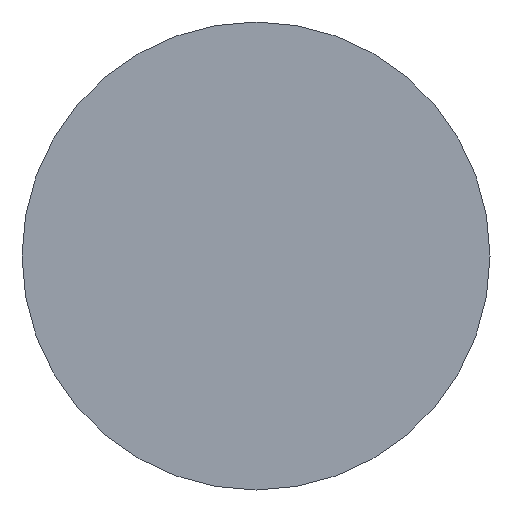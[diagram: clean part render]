
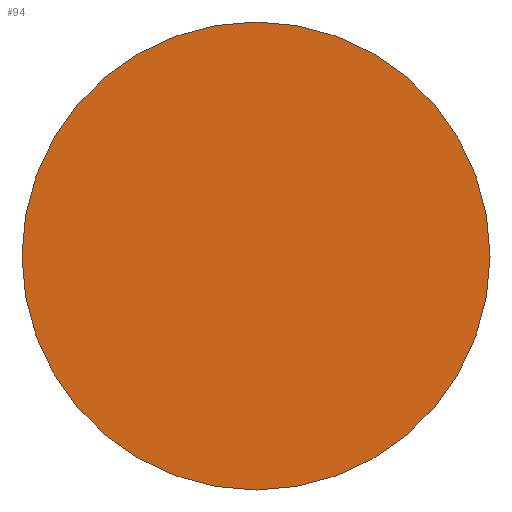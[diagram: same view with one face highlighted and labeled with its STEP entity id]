
A CAD part, front view. The second image highlights one B-rep face of the part: STEP entity #94.
In plain terms, the highlighted planar face has unit normal (0, -1, 0).
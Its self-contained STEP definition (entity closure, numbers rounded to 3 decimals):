
#64 = VERTEX_POINT( '', #136 );
#70 = EDGE_CURVE( '', #64, #90, #142, .T. );
#90 = VERTEX_POINT( '', #165 );
#94 = ADVANCED_FACE( '', ( #170 ), #171, .T. );
#100 = EDGE_CURVE( '', #90, #64, #177, .T. );
#136 = CARTESIAN_POINT( '', ( 0., -30., -11. ) );
#142 = CIRCLE( '', #220, 11. );
#165 = CARTESIAN_POINT( '', ( 0., -30., 11. ) );
#170 = FACE_OUTER_BOUND( '', #250, .T. );
#171 = PLANE( '', #251 );
#177 = CIRCLE( '', #260, 11. );
#220 = AXIS2_PLACEMENT_3D( '', #284, #285, #286 );
#250 = EDGE_LOOP( '', ( #328, #329 ) );
#251 = AXIS2_PLACEMENT_3D( '', #330, #331, #332 );
#260 = AXIS2_PLACEMENT_3D( '', #334, #335, #336 );
#284 = CARTESIAN_POINT( '', ( 0., -30., 0. ) );
#285 = DIRECTION( '', ( 0., -1., 0. ) );
#286 = DIRECTION( '', ( 0., 0., 1. ) );
#328 = ORIENTED_EDGE( '', *, *, #100, .T. );
#329 = ORIENTED_EDGE( '', *, *, #70, .T. );
#330 = CARTESIAN_POINT( '', ( 0., -30., 5.5 ) );
#331 = DIRECTION( '', ( 0., -1., 0. ) );
#332 = DIRECTION( '', ( 0., 0., 1. ) );
#334 = CARTESIAN_POINT( '', ( 0., -30., 0. ) );
#335 = DIRECTION( '', ( 0., -1., 0. ) );
#336 = DIRECTION( '', ( 0., 0., 1. ) );
